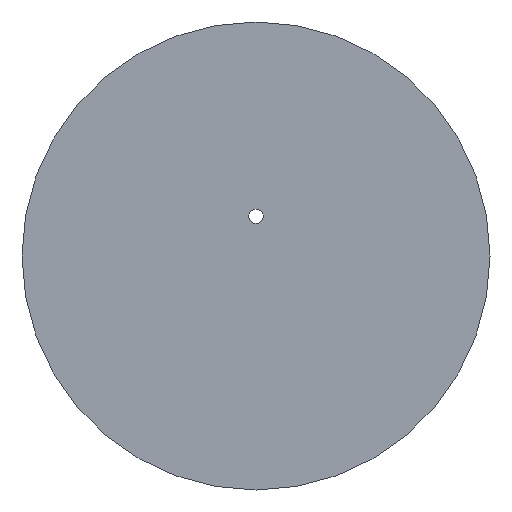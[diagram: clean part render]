
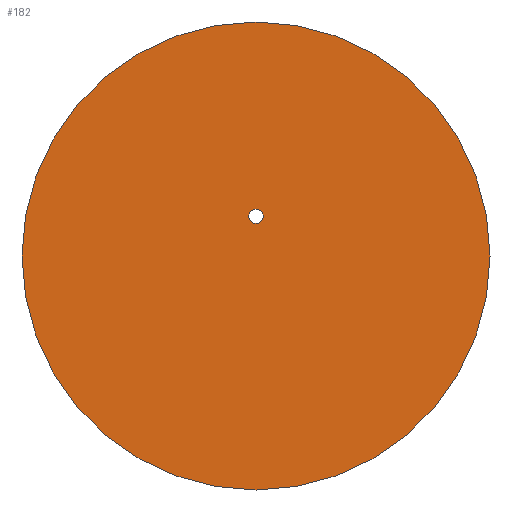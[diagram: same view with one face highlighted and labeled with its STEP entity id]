
A CAD part, left-side view. The second image highlights one B-rep face of the part: STEP entity #182.
In plain terms, the highlighted planar face has unit normal (-1, 0, 0).
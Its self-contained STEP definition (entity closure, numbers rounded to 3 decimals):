
#123=CARTESIAN_POINT('',(-2.,0.,27.7));
#124=VERTEX_POINT('',#123);
#131=CARTESIAN_POINT('',(-2.,0.,0.));
#132=DIRECTION('',(0.,0.,1.));
#133=DIRECTION('',(1.,0.,0.));
#134=AXIS2_PLACEMENT_3D('',#131,#133,#132);
#135=CIRCLE('',#134,27.7);
#136=EDGE_CURVE('',#124,#124,#135,.T.);
#163=CARTESIAN_POINT('',(-2.,0.,0.));
#164=DIRECTION('',(0.,0.,1.));
#165=DIRECTION('',(-1.,0.,0.));
#166=AXIS2_PLACEMENT_3D('',#163,#165,#164);
#167=PLANE('',#166);
#168=ORIENTED_EDGE('',*,*,#136,.F.);
#169=EDGE_LOOP('',(#168));
#170=FACE_OUTER_BOUND('',#169,.T.);
#171=CARTESIAN_POINT('',(-2.,0.,5.55));
#172=VERTEX_POINT('',#171);
#173=CARTESIAN_POINT('',(-2.,0.,4.7));
#174=DIRECTION('',(0.,0.,1.));
#175=DIRECTION('',(1.,0.,0.));
#176=AXIS2_PLACEMENT_3D('',#173,#175,#174);
#177=CIRCLE('',#176,0.85);
#178=EDGE_CURVE('',#172,#172,#177,.T.);
#179=ORIENTED_EDGE('E11',*,*,#178,.T.);
#180=EDGE_LOOP('',(#179));
#181=FACE_BOUND('',#180,.T.);
#182=ADVANCED_FACE('F13',(#170,#181),#167,.T.);
